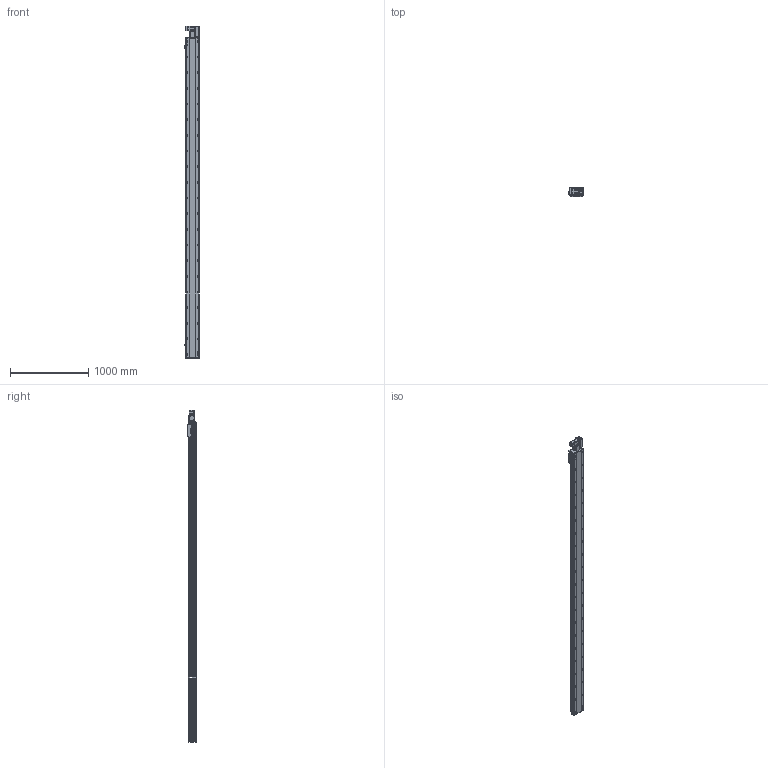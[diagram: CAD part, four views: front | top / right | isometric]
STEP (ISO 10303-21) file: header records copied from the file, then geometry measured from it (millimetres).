
FILE_DESCRIPTION (( 'STEP AP214' ), '1' );
FILE_NAME ('RTB17S-XX-3800-R-M40-C4.STEP', '2025-12-11T08:03:35', ( '' ), ( '' ), 'SwSTEP 2.0', 'SolidWorks 2018', '' );
FILE_SCHEMA (( 'AUTOMOTIVE_DESIGN' ));
Length unit declared in the file: millimetre
Products named in the file (14): RTB17-R-011菁釱^RTB17S-XX-XX-R-M40-C4; RTB14-L-017P^RTB17S-R-々湍釱蚾饜-400W_RTB17S-XX-XX-R-M40-C4; RTB17S-L-007奻裔^RTB17S-XX-XX-R-M40-C4; RTB17S-L-004佪裝蹟譫蟀諉釱^RTB17S-XX-XX-R-M40-C4; RTB14-L-005P--轴承塑胶压盖^RTB17S-R-皮带座装配-400W_RTB17S-XX-XX-R-M40-C4; RTB17S-XX-3800-R-M40-C4; RTB17S-R-々湍釱蚾饜-400W^RTB17S-XX-XX-R-M40-C4; RTB14-L-008-M20--萇儂啣^RTB17S-R-々湍釱蚾饜-400W_RTB17S-XX-XX-R-M40-C4; RTB17S-L-014-T20--々湍釱^RTB17S-R-々湍釱蚾饜-400W_RTB17S-XX-XX-R-M40-C4; RTB14-L-018P^RTB17S-R-々湍釱蚾饜-400W_RTB17S-XX-XX-R-M40-C4; RTB17S-L-001耜醱啣^RTB17S-XX-XX-R-M40-C4; RTH13-BL-012覜茼え俋离^RTB17S-XX-XX-R-M40-C4; OMRON EE-SX672 传感器^RTB17S-XX-XX-R-M40-C4; 400W侜督萇儂^RTB17S-XX-XX-R-M40-C4
Assembly tree (16 placements, depth 3):
  RTB17S-XX-3800-R-M40-C4
    RTB17-R-011菁釱^RTB17S-XX-XX-R-M40-C4
    RTB17S-L-007奻裔^RTB17S-XX-XX-R-M40-C4
    OMRON EE-SX672 传感器^RTB17S-XX-XX-R-M40-C4  x3
    RTB17S-L-001耜醱啣^RTB17S-XX-XX-R-M40-C4
    400W侜督萇儂^RTB17S-XX-XX-R-M40-C4
    RTB17S-L-004佪裝蹟譫蟀諉釱^RTB17S-XX-XX-R-M40-C4
    RTH13-BL-012覜茼え俋离^RTB17S-XX-XX-R-M40-C4
    RTB17S-R-々湍釱蚾饜-400W^RTB17S-XX-XX-R-M40-C4
      RTB17S-L-014-T20--々湍釱^RTB17S-R-々湍釱蚾饜-400W_RTB17S-XX-XX-R-M40-C4
      RTB14-L-005P--轴承塑胶压盖^RTB17S-R-皮带座装配-400W_RTB17S-XX-XX-R-M40-C4
      RTB14-L-008-M20--萇儂啣^RTB17S-R-々湍釱蚾饜-400W_RTB17S-XX-XX-R-M40-C4
      RTB14-L-017P^RTB17S-R-々湍釱蚾饜-400W_RTB17S-XX-XX-R-M40-C4  x2
      RTB14-L-018P^RTB17S-R-々湍釱蚾饜-400W_RTB17S-XX-XX-R-M40-C4
Bounding box: 183.5 x 108 x 4241 mm (x, y, z)
Volume: 35210719.4 mm3; surface area: 3987181.4 mm2
Topology: 15 solids, 15 shells, 2429 faces, 6843 edges, 4473 vertices
Faces by surface type: plane 1096, cylinder 885, bspline 301, cone 139, torus 8
Entity records: 73385 total; most frequent: CARTESIAN_POINT 21048, ORIENTED_EDGE 10530, DIRECTION 9656, EDGE_CURVE 5265, VERTEX_POINT 3461, AXIS2_PLACEMENT_3D 3391, LINE 2874, VECTOR 2874
